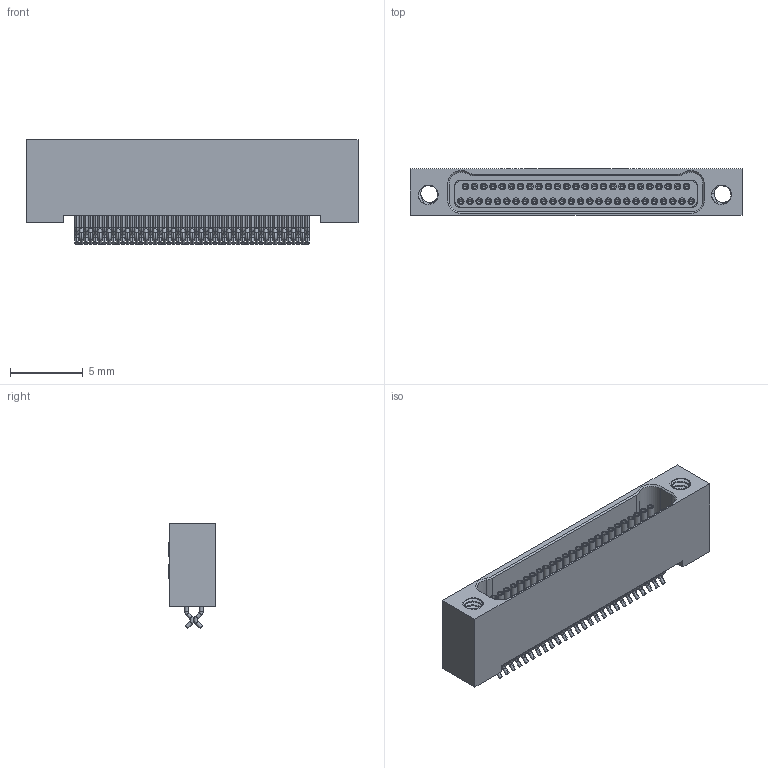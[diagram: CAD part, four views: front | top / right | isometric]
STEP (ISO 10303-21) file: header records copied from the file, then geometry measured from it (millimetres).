
FILE_DESCRIPTION (( 'STEP AP214' ), '1' );
FILE_NAME ('A29300-051 REV J.STEP', '2015-11-05T12:39:43', ( '' ), ( '' ), 'SwSTEP 2.0', 'SolidWorks 2015', '' );
FILE_SCHEMA (( 'AUTOMOTIVE_DESIGN' ));
Length unit declared in the file: inch
Products named in the file (1): A29300-051
Bounding box: 22.86 x 3.19 x 7.23 mm (x, y, z)
Volume: 255 mm3; surface area: 1097 mm2
Topology: 1 solids, 4 shells, 1225 faces, 2775 edges, 1625 vertices
Faces by surface type: cylinder 606, plane 253, torus 204, cone 108, bspline 54
Entity records: 42273 total; most frequent: CARTESIAN_POINT 14230, DIRECTION 6037, ORIENTED_EDGE 5346, EDGE_CURVE 2673, AXIS2_PLACEMENT_3D 2450, VERTEX_POINT 1625, EDGE_LOOP 1398, CIRCLE 1278
